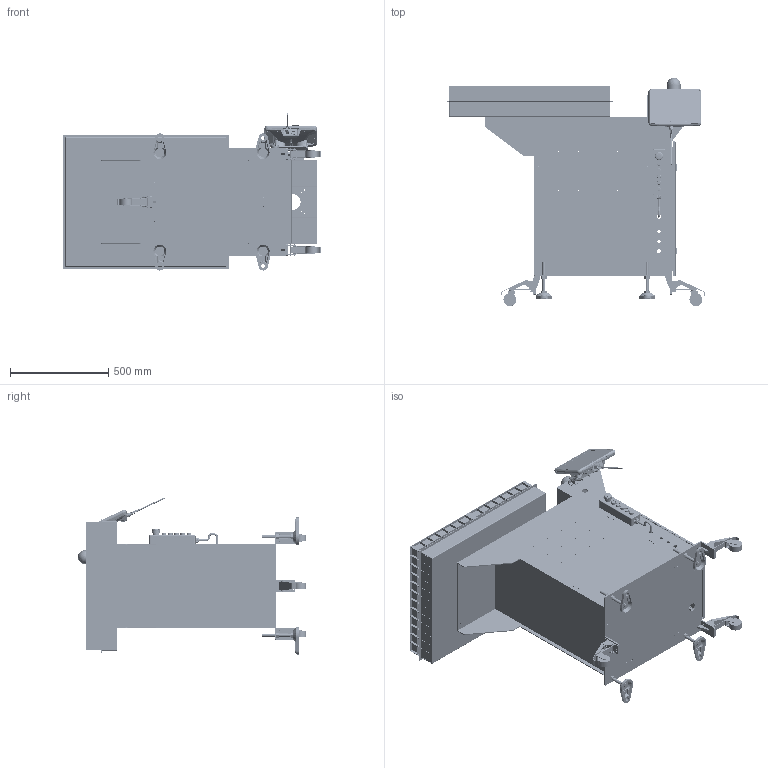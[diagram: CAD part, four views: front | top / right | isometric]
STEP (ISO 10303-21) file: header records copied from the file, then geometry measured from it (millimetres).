
FILE_DESCRIPTION (( 'STEP AP203' ), '1' );
FILE_NAME ('CNC馱釬桴V1.0-20260511.STEP', '2026-05-11T05:33:33', ( '' ), ( '' ), 'SwSTEP 2.0', 'SolidWorks 2018', '' );
FILE_SCHEMA (( 'CONFIG_CONTROL_DESIGN' ));
Products named in the file (2): CNC馱釬桴V1.0-20260511
Bounding box: 1312.95 x 1159.5 x 798 mm (x, y, z)
Surface area: 12505926 mm2 (no closed solid volume)
Topology: 0 solids, 197 shells, 10484 faces, 27268 edges, 17586 vertices
Faces by surface type: plane 5466, cylinder 2805, bspline 1299, cone 702, torus 163, sphere 49
Entity records: 464088 total; most frequent: CARTESIAN_POINT 221674, ORIENTED_EDGE 53728, DIRECTION 43598, EDGE_CURVE 27174, VERTEX_POINT 17584, AXIS2_PLACEMENT_3D 14707, LINE 14184, VECTOR 14184
